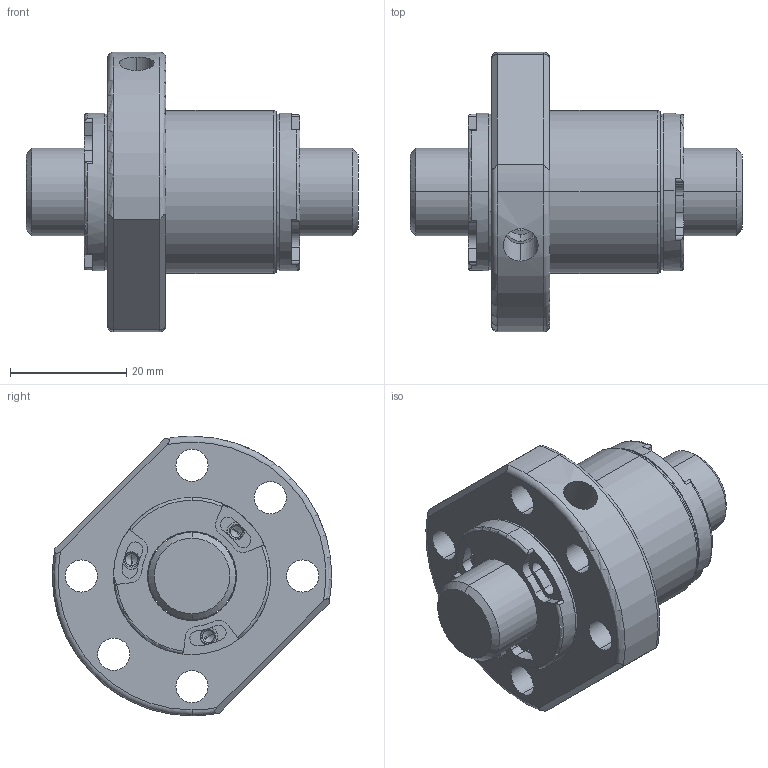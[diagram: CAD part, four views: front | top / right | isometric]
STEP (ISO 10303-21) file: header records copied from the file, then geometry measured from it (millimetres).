
FILE_DESCRIPTION (( 'STEP AP203' ), '1' );
FILE_NAME ('SFHR01605C1D-C.STEP', '2020-06-17T07:53:00', ( '' ), ( '' ), 'SwSTEP 2.0', 'SolidWorks 2013', '' );
FILE_SCHEMA (( 'CONFIG_CONTROL_DESIGN' ));
Length unit declared in the file: millimetre
Products named in the file (1): SFHR01605C1D-C
Bounding box: 57 x 47.97 x 48 mm (x, y, z)
Volume: 32761.2 mm3; surface area: 12998.7 mm2
Topology: 2 solids, 2 shells, 242 faces, 606 edges, 379 vertices
Faces by surface type: cylinder 129, plane 69, cone 28, torus 16
Entity records: 7646 total; most frequent: CARTESIAN_POINT 1538, DIRECTION 1413, ORIENTED_EDGE 1188, AXIS2_PLACEMENT_3D 602, EDGE_CURVE 594, VERTEX_POINT 379, CIRCLE 359, EDGE_LOOP 281
